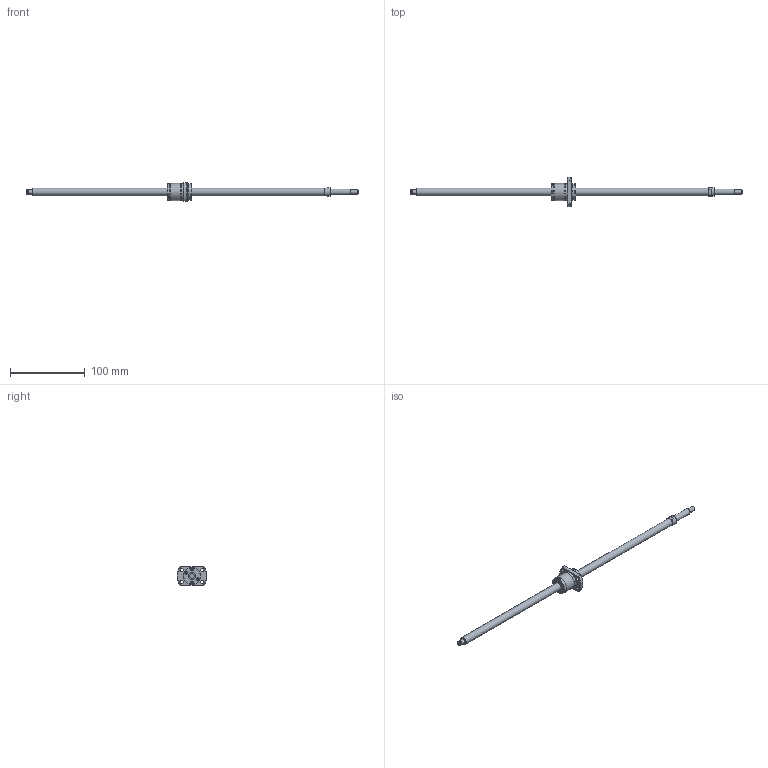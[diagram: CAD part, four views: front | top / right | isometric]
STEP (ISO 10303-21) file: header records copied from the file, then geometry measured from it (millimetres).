
FILE_DESCRIPTION(/* description */ ('STEP AP214'),/* implementation_level */ '2;1');
FILE_NAME(/* name */ 'SRT1015-387R445C7B0X(180Processing)',/* time_stamp */ '2026-08-06T15:11:32+02:00',/* author */ ('License CC BY-ND 4.0'),/* organization */ ('CADENAS'),/* preprocessor_version */ 'ST-DEVELOPER v20',/* originating_system */ 'PARTsolutions',/* authorisation */ ' ');
FILE_SCHEMA (('AUTOMOTIVE_DESIGN {1 0 10303 214 3 1 1}'));
Length unit declared in the file: millimetre
Products named in the file (3): SRT1015-387R445C7B0X(180Processing); SRT1015-387R470BCt7Processing70Shaft; SRT1015Nut
Assembly tree (2 placements, depth 2):
  SRT1015-387R445C7B0X(180Processing)
    SRT1015-387R470BCt7Processing70Shaft
    SRT1015Nut
Bounding box: 445 x 40 x 25 mm (x, y, z)
Volume: 46417 mm3; surface area: 19545.2 mm2
Topology: 2 solids, 2 shells, 155 faces, 367 edges, 241 vertices
Faces by surface type: plane 109, cylinder 35, cone 10, torus 1
Full cylindrical faces by diameter (mm): 3.8 x8, 4.5 x4, 5.7 x1, 6 x3, 8 x1, 10 x2, 11.5 x1, 22.45 x1, 22.5 x2, 23 x2
Entity records: 4367 total; most frequent: CARTESIAN_POINT 752, DIRECTION 738, ORIENTED_EDGE 664, EDGE_CURVE 332, AXIS2_PLACEMENT_3D 256, VERTEX_POINT 238, LINE 226, VECTOR 226
